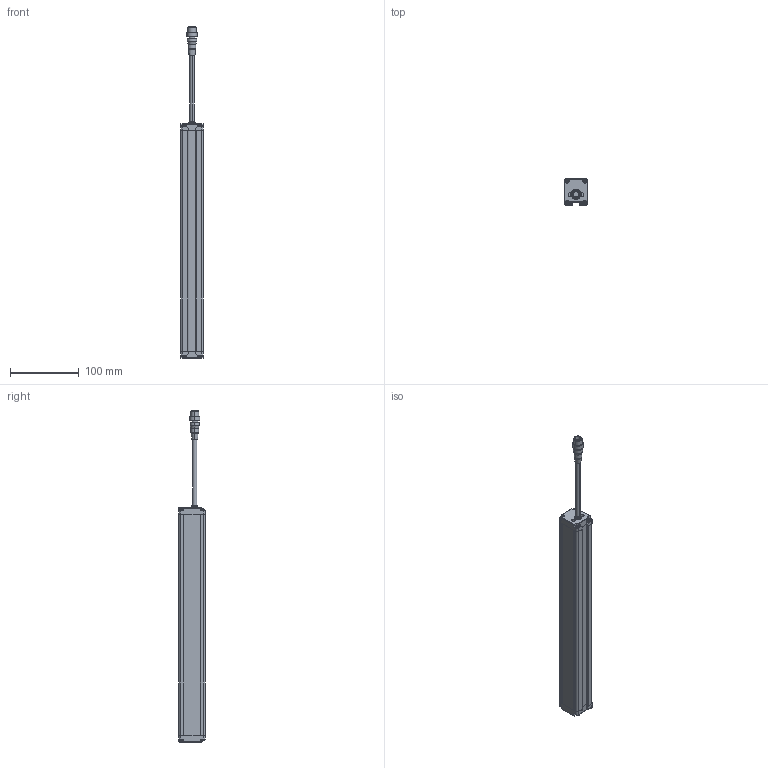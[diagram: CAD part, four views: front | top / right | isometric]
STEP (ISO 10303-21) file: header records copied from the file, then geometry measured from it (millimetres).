
FILE_DESCRIPTION((''),'2;1');
FILE_NAME('PRT0012','2026-03-31T10:14:07',('Administrator'),(''),'CREO PARAMETRIC BY PTC INC, 2016510','CREO PARAMETRIC BY PTC INC, 2016510','');
FILE_SCHEMA(('AUTOMOTIVE_DESIGN { 1 0 10303 214 1 1 1 1 }'));
Length unit declared in the file: millimetre
Products named in the file (1): PRT0012
Bounding box: 33 x 38 x 481.9 mm (x, y, z)
Surface area: 84709.2 mm2 (no closed solid volume)
Topology: 0 solids, 12 shells, 819 faces, 2212 edges, 1420 vertices
Faces by surface type: plane 388, cylinder 235, extrusion 88, sphere 40, torus 36, cone 28, bspline 4
Entity records: 32627 total; most frequent: CARTESIAN_POINT 6134, ORIENTED_EDGE 4336, DIRECTION 4076, EDGE_CURVE 2168, VERTEX_POINT 1420, AXIS2_PLACEMENT_3D 1393, VECTOR 1290, LINE 1202
